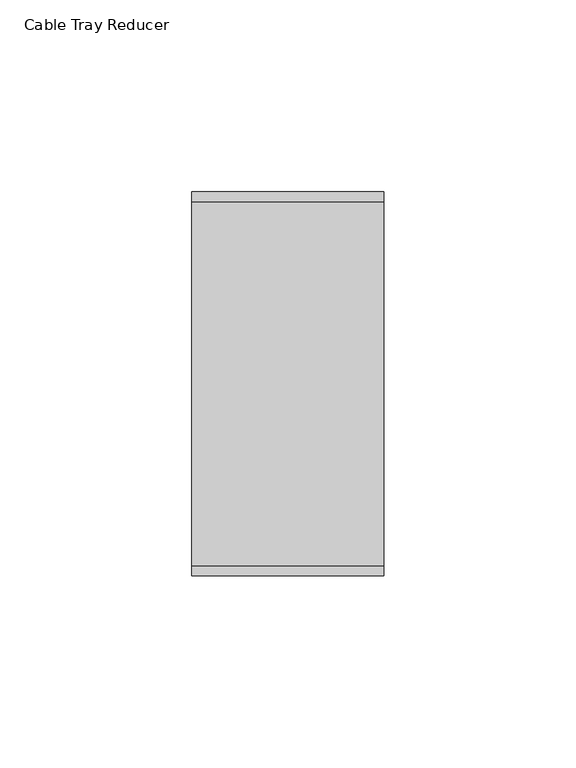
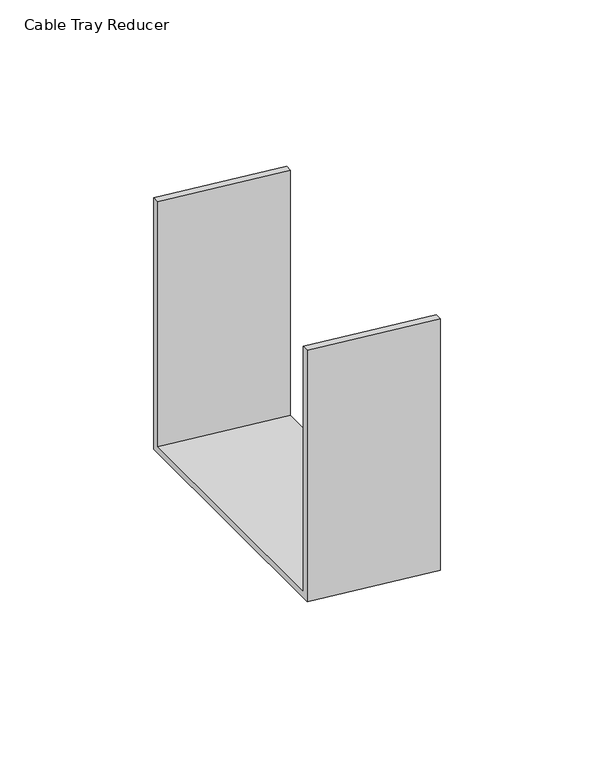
"""IFC4 building model written with IfcOpenShell, lengths in millimetres: cable carrier fitting geometry, Cable Tray Reducer : ELEC_ELV_TKG_N2402."""

from ifc_helpers import new_model, si_unit, origin, place, context, project, spatial, faceted_brep, source, transform, mapped, element, save


def cable_tray_reducer_97d4e856(model_context):
    return source(origin(), model_context, "Body", "Brep", [
        faceted_brep([(50.0, -50.0, -55.0000015), (50.0, 50.0, -55.0000015), (50.0, 50.0, 44.9999985), (50.0, 47.46, 44.9999985), (50.0, 47.46, -52.4600015), (50.0, -47.46, -52.4600015), (50.0, -47.46, 44.9999985), (50.0, -50.0, 44.9999985), (0.0, -50.0, -50.0), (0.0, -50.0, 50.0), (0.0, -47.46, 50.0), (0.0, -47.46, -47.46), (0.0, 47.46, -47.46), (0.0, 47.46, 50.0), (0.0, 50.0, 50.0), (0.0, 50.0, -50.0)], [[[0, 1, 2, 3, 4, 5, 6, 7]], [[8, 9, 10, 11, 12, 13, 14, 15]], [[8, 15, 1, 0]], [[15, 14, 2, 1]], [[14, 13, 3, 2]], [[13, 12, 4, 3]], [[12, 11, 5, 4]], [[11, 10, 6, 5]], [[10, 9, 7, 6]], [[9, 8, 0, 7]]]),
    ])


if __name__ == "__main__":
    model = new_model("IFC4")
    model_context = context("Model", 3, world=origin())
    ifc_project = project(units=[si_unit("LENGTHUNIT", "METRE", prefix="MILLI")], contexts=[model_context])
    site = spatial("IfcSite", under=ifc_project)
    building = spatial("IfcBuilding", under=site)
    placement = place(None, origin())
    cable_tray_reducer_shape = cable_tray_reducer_97d4e856(model_context)
    element("IfcCableCarrierFitting", 1, ObjectType="Cable Tray Reducer : ELEC_ELV_TKG_N2402", at=placement, inside=building, context=model_context, shape_type="MappedRepresentation", body=[
        mapped(cable_tray_reducer_shape, transform((0.0, 0.0, 0.0), x_axis=(1.0, 0.0, 0.0), y_axis=(0.0, 1.0, 0.0), z_axis=(0.0, 0.0, 1.0))),
    ])
    save(model, "model.ifc")
